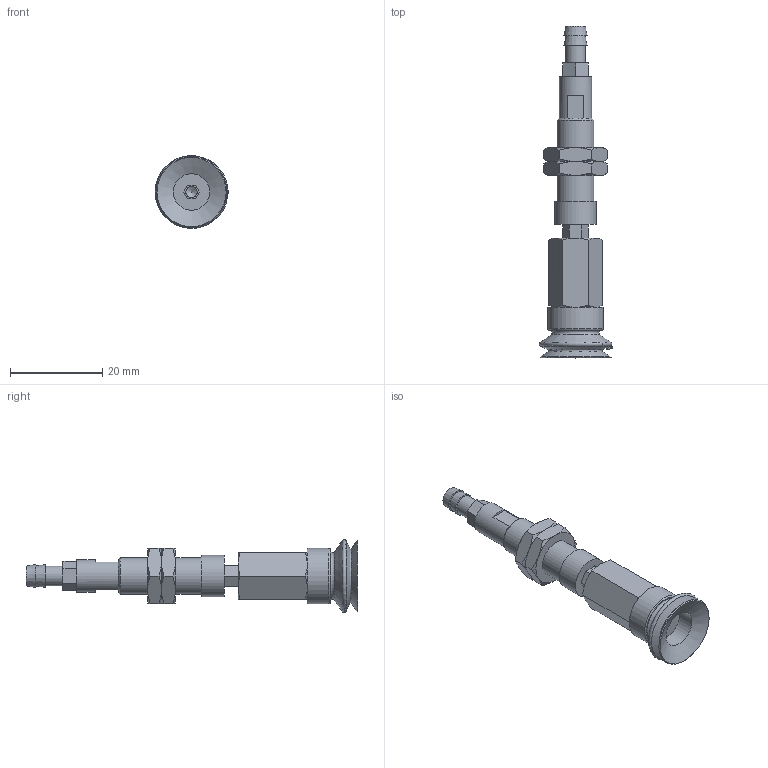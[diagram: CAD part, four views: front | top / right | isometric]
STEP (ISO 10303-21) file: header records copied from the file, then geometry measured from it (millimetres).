
FILE_DESCRIPTION(('STEP AP203'),'1');
FILE_NAME('-T.stp','2025-08-27T06:50:35',(' '),(' '),'Spatial InterOp 3D',' ',' ');
FILE_SCHEMA(('CONFIG_CONTROL_DESIGN'));
Length unit declared in the file: millimetre
Products named in the file (8): BNABPJTH-15-3-※-T; ADAPTER; NAPCTH-10-3-MBODY; Adapter-15-NAPJ; NAPJH-15-3-NUT; NAPJTH-15-3-FBODY; BPJG-15-※; T
Assembly tree (8 placements, depth 2):
  BNABPJTH-15-3-※-T
    ADAPTER
    NAPCTH-10-3-MBODY
    Adapter-15-NAPJ
    NAPJH-15-3-NUT  x2
    NAPJTH-15-3-FBODY
    BPJG-15-※
    T
Bounding box: 15.99 x 72 x 15.79 mm (x, y, z)
Volume: 4426.8 mm3; surface area: 5121.1 mm2
Topology: 8 solids, 8 shells, 165 faces, 355 edges, 214 vertices
Faces by surface type: plane 74, cone 56, cylinder 16, torus 9, bspline 6, sphere 4
Full cylindrical faces by diameter (mm): 2.5 x1, 3 x1, 4.134 x2, 4.3 x1, 4.6 x1, 5 x2, 7 x1, 7.188 x2, 7.9 x1, 8 x2, 9 x1, 12 x1
Entity records: 4424 total; most frequent: CARTESIAN_POINT 1193, DIRECTION 592, ORIENTED_EDGE 516, EDGE_CURVE 258, AXIS2_PLACEMENT_3D 245, EDGE_LOOP 199, VERTEX_POINT 178, FACE_OUTER_BOUND 164
